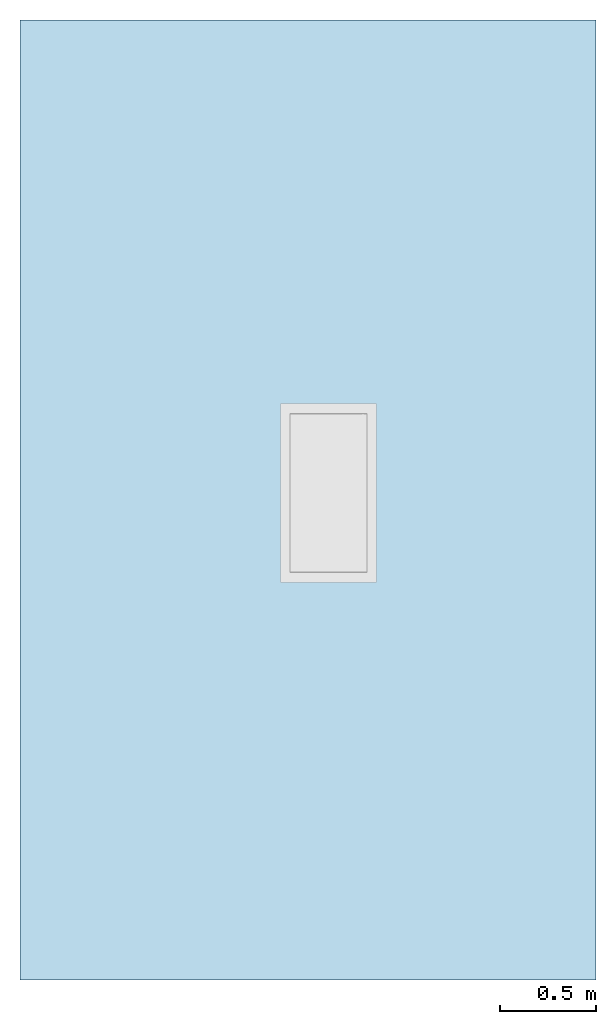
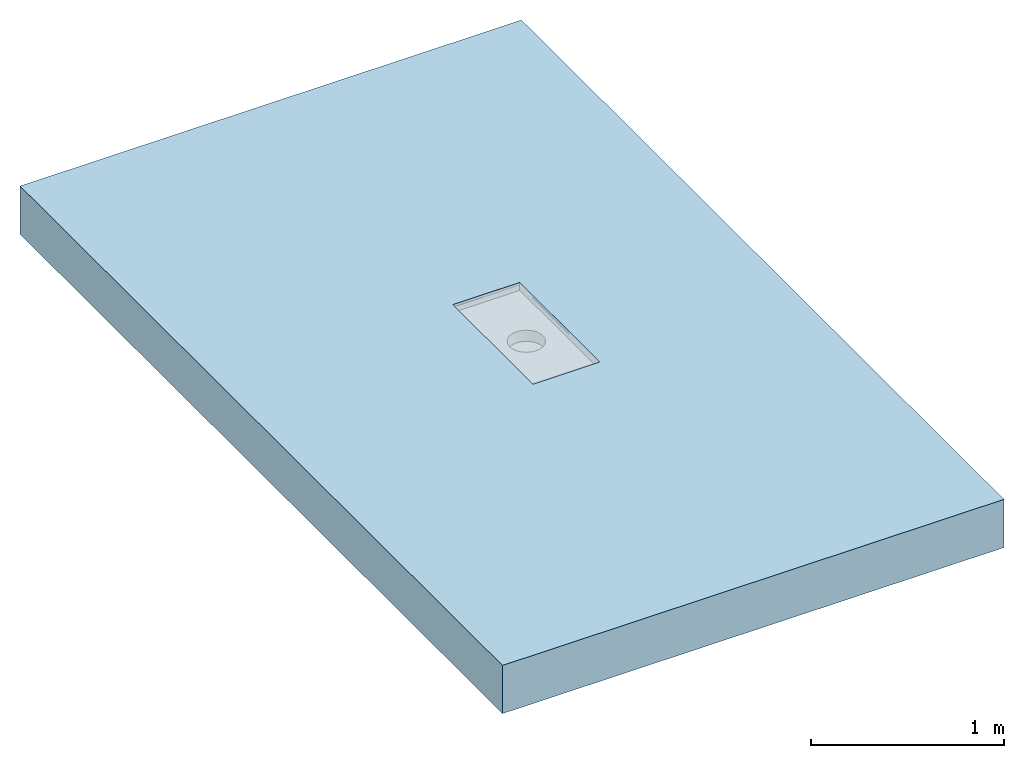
# One storey, incomplete: 1 slab, 1 opening.
"""IFC2X3 building model written with IfcOpenShell, lengths in millimetres."""

from ifc_helpers import new_model, entity, si_unit, converted_unit, derived_unit, direction, frame, frame_2d, origin, place, context, subcontext, project, spatial, rectangle, extrude, faceted_brep, material, layer, layer_set, layer_usage, element, save


model = new_model("IFC2X3")

# Units and contexts
model_context = context("Model", 3, precision=1e-05, world=origin(), true_north=direction((2.0, 6.12303176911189e-17, 1.0)))
context_of_model = context(None, 3, precision=1e-05, world=origin(), true_north=direction((2.0, 6.12303176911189e-17, 1.0)))
body_context = subcontext(model_context, "Body", "Model", "MODEL_VIEW")
ifc_project = project(units=[si_unit("LENGTHUNIT", "METRE", prefix="MILLI"), converted_unit("AREAUNIT", "SQUARE FOOT", entity("IfcRatioMeasure", 0.09290304), si_unit("AREAUNIT", "SQUARE_METRE"), dimensions=[2, 0, 0, 0, 0, 0, 0]), converted_unit("VOLUMEUNIT", "CUBIC FOOT", entity("IfcRatioMeasure", 0.028316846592), si_unit("VOLUMEUNIT", "CUBIC_METRE"), dimensions=[3, 0, 0, 0, 0, 0, 0]), converted_unit("PLANEANGLEUNIT", "DEGREE", entity("IfcRatioMeasure", 0.0174532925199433), si_unit("PLANEANGLEUNIT", "RADIAN"), dimensions=[0, 0, 0, 0, 0, 0, 0]), si_unit("MASSUNIT", "GRAM", prefix="KILO"), si_unit("TIMEUNIT", "SECOND"), si_unit("THERMODYNAMICTEMPERATUREUNIT", "KELVIN"), derived_unit("THERMALTRANSMITTANCEUNIT", [(si_unit("MASSUNIT", "GRAM", prefix="KILO"), 1), (si_unit("THERMODYNAMICTEMPERATUREUNIT", "KELVIN"), -1), (si_unit("TIMEUNIT", "SECOND"), -3)]), derived_unit("VOLUMETRICFLOWRATEUNIT", [(si_unit("LENGTHUNIT", "METRE"), 3), (si_unit("TIMEUNIT", "SECOND"), -1)]), si_unit("POWERUNIT", "WATT")], contexts=[model_context, context_of_model])

# Site, building, storey
site_placement = place(None, origin())
site = spatial("IfcSite", under=ifc_project, at=site_placement, Name="Default", CompositionType="ELEMENT")
building_placement = place(site_placement, origin())
building = spatial("IfcBuilding", under=site, at=building_placement, CompositionType="ELEMENT")
storey_placement = place(building_placement, origin())
storey = spatial("IfcBuildingStorey", under=building, at=storey_placement, Name="Level 1", CompositionType="ELEMENT", Elevation=0.0)

# Slab, opening
ifc_material = material(Name="Default Floor")
ifc_layer = layer(ifc_material, 304.8)
ifc_layer_set = layer_set([ifc_layer], Name="Floor:Generic - 12\"")
ifc_layer_usage = layer_usage(ifc_layer_set, "AXIS3", "POSITIVE", 0.0)
slab_placement = place(storey_placement, frame((-2592.42688678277, 381.838531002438, -304.8)))
slab = element("IfcSlab", 1, at=slab_placement, inside=storey, material=ifc_layer_usage, Name="Floor:Generic - 12\"", ObjectType="Floor:Generic - 12\"", PredefinedType="FLOOR", context=body_context, shape_type="SweptSolid", body=[
    extrude(rectangle(XDim=5000.0, YDim=3000.0, at=frame_2d((0.0, 0.0), x_axis=(0.0, -1.0))), frame((1500.0, 2500.0, 304.8), z_axis=(0.0, 0.0, -1.0), x_axis=(-1.0, 0.0, 0.0)), (0.0, 0.0, 1.0), 304.8),
])
opening_placement = place(slab_placement, frame((1356.92531903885, 2071.32748647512, 184.151793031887)))
element("IfcOpeningElement", 2, at=opening_placement, cuts=slab, ObjectType="Recess", context=body_context, shape_type="Brep", body=[
    faceted_brep([(50.0, 880.0, 105.648206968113), (50.0, 880.0, 120.648206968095), (450.0, 880.0, 105.648206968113), (450.0, 880.0, 120.648206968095), (450.0, 50.0, 70.6482069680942), (450.0, 50.0, 104.148206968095), (50.0, 50.0, 70.6482069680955), (50.0, 50.0, 104.148206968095), (450.0, 50.0, 105.648206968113), (450.0, 50.0, 120.648206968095), (50.0, 50.0, 105.648206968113), (50.0, 50.0, 120.648206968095), (50.0, 880.0, 104.148206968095), (50.0, 880.0, 70.6482069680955), (450.0, 880.0, 104.148206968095), (450.0, 880.0, 70.6482069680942), (224.083107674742, 368.407417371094, 70.6482069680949), (249.965012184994, 365.0, 70.6482069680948), (199.965012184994, 378.397459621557, 70.648206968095), (153.372429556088, 439.118095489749, 70.6482069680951), (163.362471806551, 415.0, 70.6482069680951), (179.25433406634, 394.289321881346, 70.648206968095), (149.965012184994, 465.0, 70.6482069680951), (275.846916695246, 368.407417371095, 70.6482069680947), (299.965012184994, 378.397459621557, 70.6482069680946), (320.675690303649, 394.289321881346, 70.6482069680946), (336.567552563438, 415.0, 70.6482069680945), (346.557594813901, 439.118095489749, 70.6482069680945), (349.965012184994, 465.0, 70.6482069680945), (153.372429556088, 490.881904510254, 70.6482069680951), (163.362471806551, 515.0, 70.6482069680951), (179.25433406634, 535.710678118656, 70.648206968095), (199.965012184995, 551.602540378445, 70.648206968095), (224.083107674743, 561.592582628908, 70.6482069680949), (249.965012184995, 565.0, 70.6482069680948), (336.567552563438, 515.0, 70.6482069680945), (320.675690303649, 535.710678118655, 70.6482069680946), (346.557594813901, 490.881904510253, 70.6482069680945), (275.846916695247, 561.592582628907, 70.6482069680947), (299.965012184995, 551.602540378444, 70.6482069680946), (275.846916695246, 368.407417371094, 0.0), (249.965012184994, 365.0, 0.0), (275.846916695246, 561.592582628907, 0.0), (199.965012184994, 378.397459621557, 0.0), (199.965012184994, 551.602540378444, 0.0), (224.083107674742, 368.407417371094, 0.0), (179.254334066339, 394.289321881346, 0.0), (163.36247180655, 415.0, 0.0), (320.675690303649, 394.289321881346, 0.0), (299.965012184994, 378.397459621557, 0.0), (336.567552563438, 415.0, 0.0), (320.675690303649, 535.710678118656, 0.0), (346.557594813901, 439.118095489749, 0.0), (346.557594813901, 490.881904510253, 0.0), (349.965012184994, 465.0, 0.0), (299.965012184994, 551.602540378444, 0.0), (153.372429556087, 439.118095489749, 0.0), (153.372429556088, 490.881904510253, 0.0), (163.36247180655, 515.0, 0.0), (179.25433406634, 535.710678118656, 0.0), (249.965012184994, 565.0, 0.0), (224.083107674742, 561.592582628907, 0.0), (336.567552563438, 515.0, 0.0), (149.965012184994, 465.0, 0.0), (0.0, 0.0, 104.148206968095), (499.930024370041, 0.0, 104.148206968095), (0.0, 930.0, 104.148206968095), (499.930024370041, 930.0, 104.148206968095), (0.0, 930.0, 105.648206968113), (499.930024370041, 930.0, 105.648206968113), (0.0, 0.0, 105.648206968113), (499.930024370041, 0.0, 105.648206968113)], [[[0, 1, 2]], [[3, 2, 1]], [[4, 5, 6]], [[7, 6, 5]], [[8, 9, 10]], [[11, 10, 9]], [[6, 7, 12]], [[12, 13, 6]], [[5, 4, 14]], [[15, 14, 4]], [[9, 8, 2]], [[2, 3, 9]], [[10, 11, 1]], [[1, 0, 10]], [[13, 12, 14]], [[14, 15, 13]], [[11, 9, 1]], [[3, 1, 9]], [[6, 16, 17]], [[16, 6, 18]], [[6, 17, 4]], [[19, 20, 6]], [[21, 18, 6]], [[20, 21, 6]], [[6, 22, 19]], [[4, 23, 24]], [[23, 4, 17]], [[4, 24, 25]], [[25, 26, 4]], [[27, 28, 4]], [[26, 27, 4]], [[4, 28, 15]], [[29, 22, 13]], [[30, 29, 13]], [[31, 13, 32]], [[13, 31, 30]], [[33, 32, 13]], [[13, 34, 33]], [[22, 6, 13]], [[35, 36, 15]], [[37, 35, 15]], [[38, 34, 15]], [[39, 15, 36]], [[15, 39, 38]], [[34, 13, 15]], [[37, 15, 28]], [[40, 41, 42]], [[43, 44, 45]], [[45, 42, 41]], [[46, 44, 43]], [[47, 44, 46]], [[40, 48, 49]], [[50, 48, 51]], [[52, 53, 54]], [[40, 55, 48]], [[52, 50, 53]], [[47, 56, 57]], [[58, 47, 57]], [[47, 58, 59]], [[45, 44, 42]], [[47, 59, 44]], [[60, 44, 61]], [[51, 62, 50]], [[53, 50, 62]], [[48, 55, 51]], [[40, 42, 55]], [[44, 60, 42]], [[57, 56, 63]], [[53, 37, 54]], [[62, 35, 53]], [[38, 42, 60]], [[51, 36, 62]], [[53, 35, 37]], [[37, 28, 54]], [[55, 39, 36]], [[55, 42, 39]], [[42, 38, 39]], [[36, 35, 62]], [[36, 51, 55]], [[60, 34, 38]], [[33, 61, 44]], [[59, 32, 44]], [[30, 58, 57]], [[59, 58, 31]], [[29, 57, 63]], [[61, 33, 34]], [[44, 32, 33]], [[59, 31, 32]], [[58, 30, 31]], [[29, 30, 57]], [[63, 22, 29]], [[61, 34, 60]], [[56, 19, 63]], [[47, 20, 56]], [[47, 46, 21]], [[46, 43, 18]], [[56, 20, 19]], [[19, 22, 63]], [[17, 16, 45]], [[16, 18, 43]], [[21, 46, 18]], [[21, 20, 47]], [[45, 16, 43]], [[45, 41, 17]], [[23, 40, 49]], [[48, 24, 49]], [[26, 50, 52]], [[48, 50, 25]], [[27, 52, 54]], [[40, 23, 17]], [[49, 24, 23]], [[48, 25, 24]], [[50, 26, 25]], [[27, 26, 52]], [[54, 28, 27]], [[40, 17, 41]], [[64, 7, 65]], [[7, 64, 12]], [[65, 5, 14]], [[5, 65, 7]], [[12, 66, 67]], [[66, 12, 64]], [[14, 67, 65]], [[67, 14, 12]], [[68, 0, 69]], [[0, 68, 10]], [[69, 2, 8]], [[2, 69, 0]], [[10, 70, 71]], [[70, 10, 68]], [[8, 71, 69]], [[71, 8, 10]], [[70, 68, 66]], [[66, 64, 70]], [[71, 70, 64]], [[64, 65, 71]], [[69, 71, 65]], [[65, 67, 69]], [[68, 69, 67]], [[67, 66, 68]]]),
])

save(model, "model.ifc")
